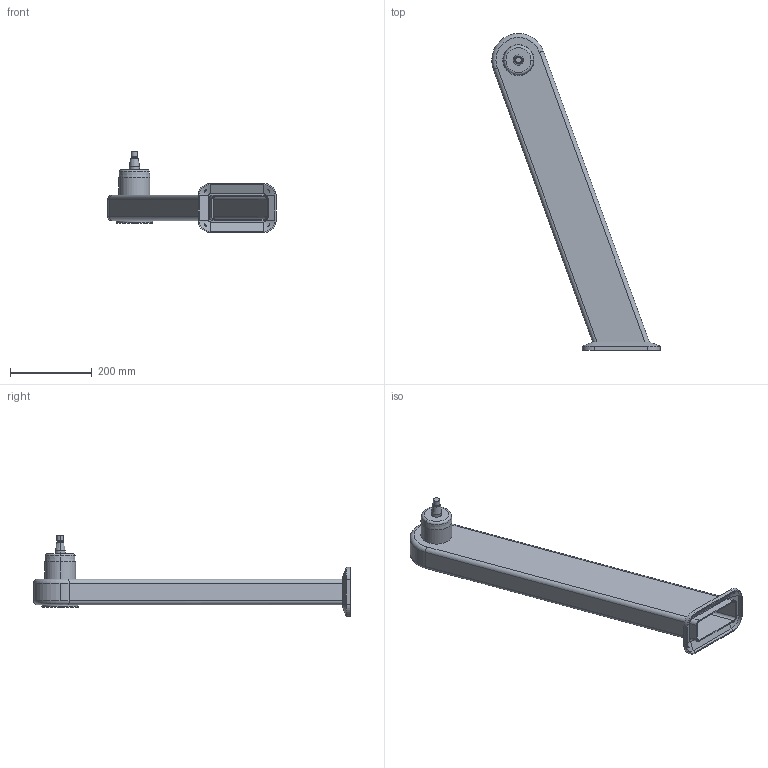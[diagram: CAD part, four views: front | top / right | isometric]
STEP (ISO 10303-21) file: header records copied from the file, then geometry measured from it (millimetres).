
FILE_DESCRIPTION (( 'STEP AP214' ), '1' );
FILE_NAME ('WP710_H710_-20.STEP', '2014-06-27T07:54:55', ( '' ), ( '' ), 'SwSTEP 2.0', 'SolidWorks 2014', '' );
FILE_SCHEMA (( 'AUTOMOTIVE_DESIGN' ));
Length unit declared in the file: millimetre
Products named in the file (1): WP710_H710_-20
Bounding box: 411.64 x 775 x 198 mm (x, y, z)
Volume: 1294873.6 mm3; surface area: 648398.2 mm2
Topology: 1 solids, 1 shells, 112 faces, 253 edges, 154 vertices
Faces by surface type: cylinder 44, plane 40, cone 20, torus 8
Entity records: 3234 total; most frequent: CARTESIAN_POINT 679, DIRECTION 553, ORIENTED_EDGE 506, EDGE_CURVE 253, AXIS2_PLACEMENT_3D 211, VERTEX_POINT 154, LINE 131, VECTOR 131
